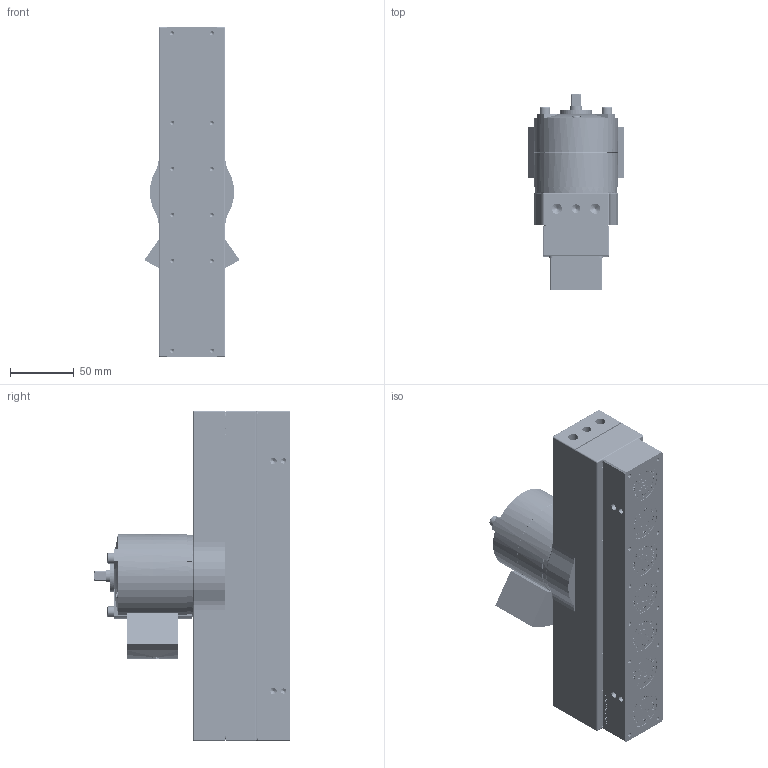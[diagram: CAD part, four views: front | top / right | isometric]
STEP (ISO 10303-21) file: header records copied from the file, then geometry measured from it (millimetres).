
FILE_DESCRIPTION (( 'STEP AP214' ), '1' );
FILE_NAME ('81401193_CFM.STEP', '2024-06-07T21:09:11', ( '' ), ( '' ), 'SwSTEP 2.0', 'SolidWorks 2022', '' );
FILE_SCHEMA (( 'AUTOMOTIVE_DESIGN' ));
Length unit declared in the file: millimetre
Products named in the file (1): 81401193_CFM
Bounding box: 74.42 x 153.3 x 258.2 mm (x, y, z)
Volume: 1220031 mm3; surface area: 152657 mm2
Topology: 12 solids, 47 shells, 6253 faces, 16767 edges, 11020 vertices
Faces by surface type: plane 2596, bspline 1967, cylinder 1442, cone 211, torus 29, sphere 8
Entity records: 373148 total; most frequent: CARTESIAN_POINT 169842, ORIENTED_EDGE 33346, DIRECTION 20319, EDGE_CURVE 16673, VERTEX_POINT 11020, LINE 9277, VECTOR 9277, EDGE_LOOP 6773
